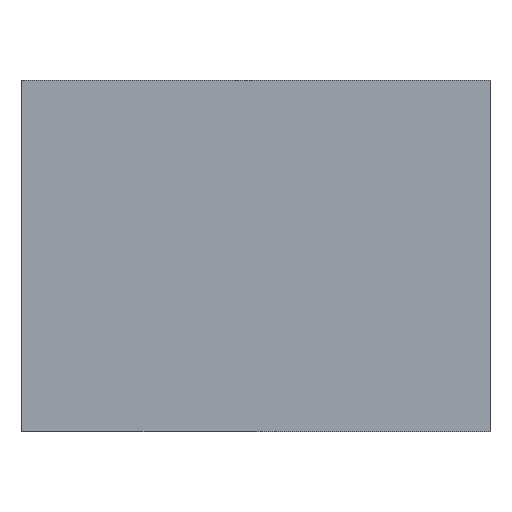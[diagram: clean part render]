
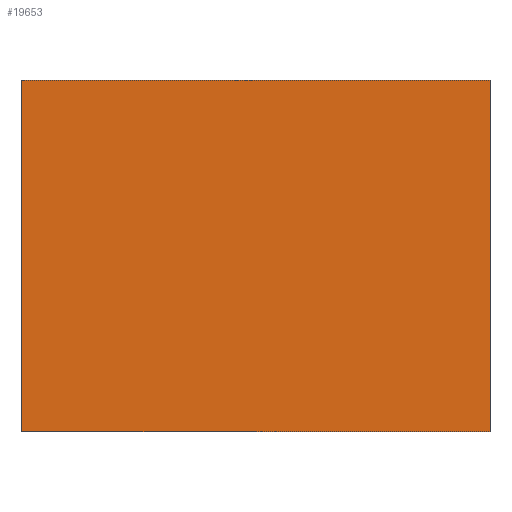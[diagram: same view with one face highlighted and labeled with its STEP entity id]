
A CAD part, front view. The second image highlights one B-rep face of the part: STEP entity #19653.
In plain terms, the highlighted planar face has unit normal (0, -1, 0).
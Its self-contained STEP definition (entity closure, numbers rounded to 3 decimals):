
#1193=PLANE('',#20732);
#1807=FACE_OUTER_BOUND('',#2859,.T.);
#2859=EDGE_LOOP('',(#12716,#12717,#12718,#12719));
#4024=LINE('',#25916,#5800);
#4025=LINE('',#25918,#5801);
#4026=LINE('',#25920,#5802);
#4027=LINE('',#25921,#5803);
#5800=VECTOR('',#21877,10.);
#5801=VECTOR('',#21878,10.);
#5802=VECTOR('',#21879,10.);
#5803=VECTOR('',#21880,10.);
#7910=VERTEX_POINT('',#25914);
#7911=VERTEX_POINT('',#25915);
#7912=VERTEX_POINT('',#25917);
#7913=VERTEX_POINT('',#25919);
#9840=EDGE_CURVE('',#7910,#7911,#4024,.T.);
#9841=EDGE_CURVE('',#7912,#7910,#4025,.T.);
#9842=EDGE_CURVE('',#7913,#7912,#4026,.T.);
#9843=EDGE_CURVE('',#7911,#7913,#4027,.T.);
#12716=ORIENTED_EDGE('',*,*,#9840,.F.);
#12717=ORIENTED_EDGE('',*,*,#9841,.F.);
#12718=ORIENTED_EDGE('',*,*,#9842,.F.);
#12719=ORIENTED_EDGE('',*,*,#9843,.F.);
#19653=ADVANCED_FACE('',(#1807),#1193,.T.);
#20732=AXIS2_PLACEMENT_3D('',#25913,#21875,#21876);
#21875=DIRECTION('center_axis',(0.,-1.,0.));
#21876=DIRECTION('ref_axis',(0.,0.,-1.));
#21877=DIRECTION('',(1.,0.,0.));
#21878=DIRECTION('',(0.,0.,1.));
#21879=DIRECTION('',(-1.,0.,0.));
#21880=DIRECTION('',(0.,0.,-1.));
#25913=CARTESIAN_POINT('Origin',(0.,-1000.,21.5));
#25914=CARTESIAN_POINT('',(-121.25,-1000.,112.65));
#25915=CARTESIAN_POINT('',(121.25,-1000.,112.65));
#25916=CARTESIAN_POINT('',(121.25,-1000.,112.65));
#25917=CARTESIAN_POINT('',(-121.25,-1000.,-69.65));
#25918=CARTESIAN_POINT('',(-121.25,-1000.,112.65));
#25919=CARTESIAN_POINT('',(121.25,-1000.,-69.65));
#25920=CARTESIAN_POINT('',(-121.25,-1000.,-69.65));
#25921=CARTESIAN_POINT('',(121.25,-1000.,-69.65));
